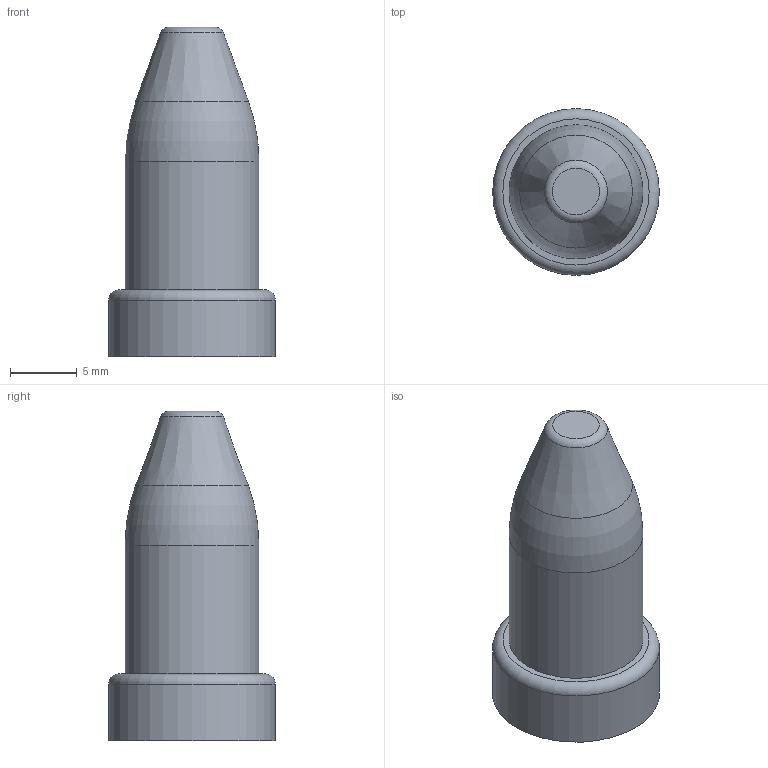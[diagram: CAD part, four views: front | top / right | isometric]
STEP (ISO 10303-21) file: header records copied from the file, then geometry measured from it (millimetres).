
FILE_DESCRIPTION (( 'STEP AP214' ), '1' );
FILE_NAME ('P-10mm-1.9mm-.500.STEP', '2023-11-07T11:14:46', ( '' ), ( '' ), 'SwSTEP 2.0', 'SolidWorks 2020', '' );
FILE_SCHEMA (( 'AUTOMOTIVE_DESIGN' ));
Length unit declared in the file: inch
Products named in the file (1): P-10mm-1.9mm-.500
Bounding box: 12.45 x 12.45 x 24.61 mm (x, y, z)
Volume: 1857.2 mm3; surface area: 916.5 mm2
Topology: 1 solids, 1 shells, 9 faces, 14 edges, 8 vertices
Faces by surface type: plane 3, torus 3, cylinder 2, cone 1
Full cylindrical faces by diameter (mm): 10 x1, 12.446 x1
Entity records: 214 total; most frequent: DIRECTION 36, CARTESIAN_POINT 26, AXIS2_PLACEMENT_3D 18, ORIENTED_EDGE 16, EDGE_LOOP 16, FACE_OUTER_BOUND 14, ADVANCED_FACE 9, CIRCLE 8
